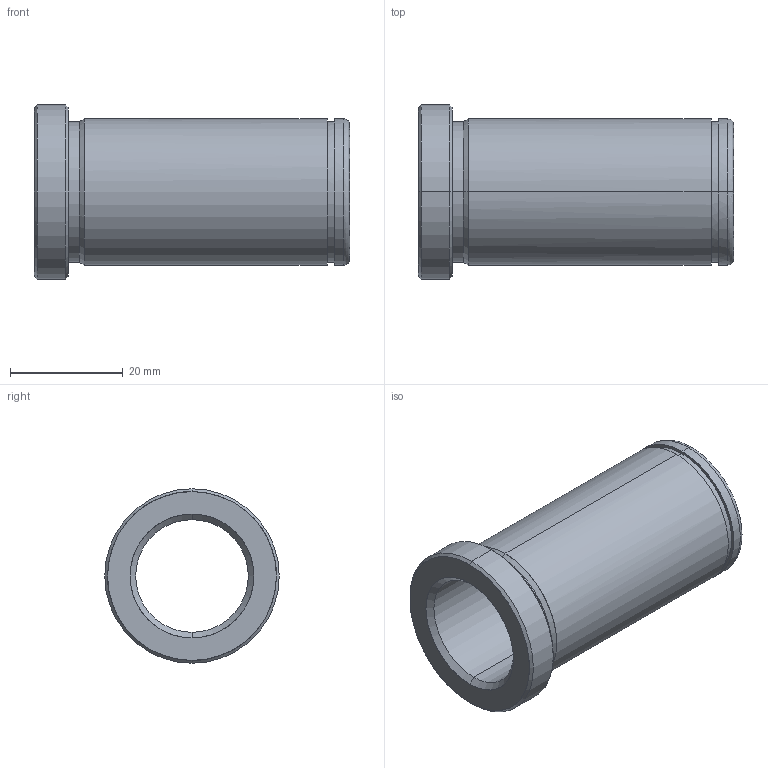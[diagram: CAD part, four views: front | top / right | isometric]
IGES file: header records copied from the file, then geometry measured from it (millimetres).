
Start section: START RECORD GO HERE.
Global section: file name: 553-20X56.igs; native system: DASSAULT SYSTEMES CATIA V5 R20 - www.3ds.com; preprocessor: CATIA Version 5 Release 20 ; author: Utente; organization: NB04-ASUS; date: 20210523.200755; units: millimetre
Bounding box: 56 x 31 x 31 mm (x, y, z)
Surface area: 9019.2 mm2 (no closed solid volume)
Topology: 0 solids, 0 shells, 29 faces, 184 edges, 184 vertices
Faces by surface type: revolution 24, plane 5
